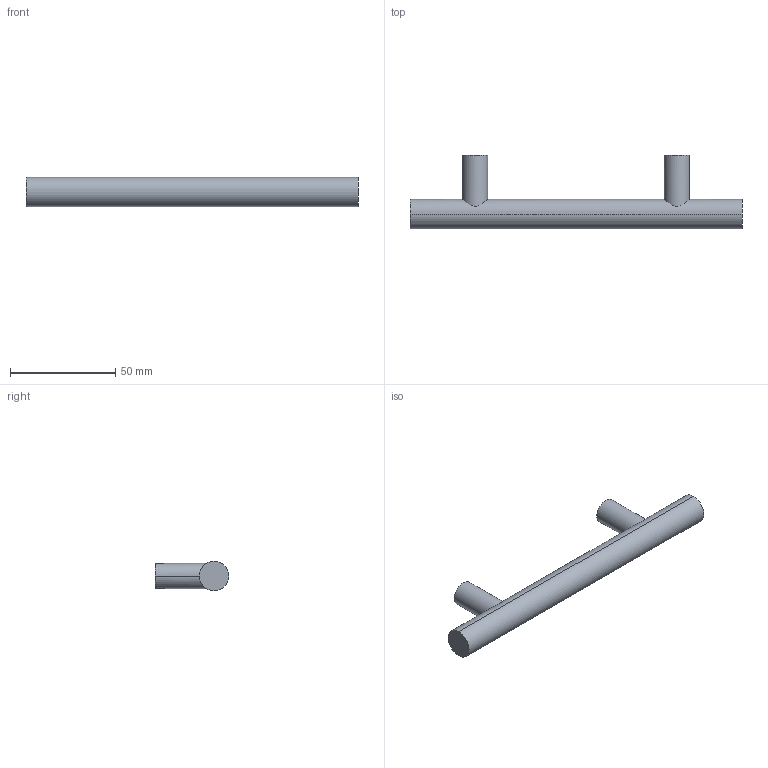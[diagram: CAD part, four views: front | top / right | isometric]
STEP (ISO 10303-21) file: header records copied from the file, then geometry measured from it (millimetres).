
FILE_DESCRIPTION( ( '' ), '1' );
FILE_NAME( 'D:/1.AUTOCAD EXPORT/Group 10/sheet_10_1/9071045.stp', '2013-10-21T10:31:28', ( '' ), ( '' ), ' ', ' ', ' ' );
FILE_SCHEMA( ( 'automotive_design' ) );
Length unit declared in the file: millimetre
Products named in the file (1): 1
Bounding box: 158 x 35 x 14 mm (x, y, z)
Volume: 28934.2 mm3; surface area: 9228.9 mm2
Topology: 1 solids, 1 shells, 16 faces, 32 edges, 22 vertices
Faces by surface type: cylinder 10, plane 6
Entity records: 972 total; most frequent: CARTESIAN_POINT 205, DIRECTION 76, STYLED_ITEM 71, PRESENTATION_STYLE_ASSIGNMENT 71, COLOUR_RGB 71, ORIENTED_EDGE 64, AXIS2_PLACEMENT_3D 33, EDGE_CURVE 32
